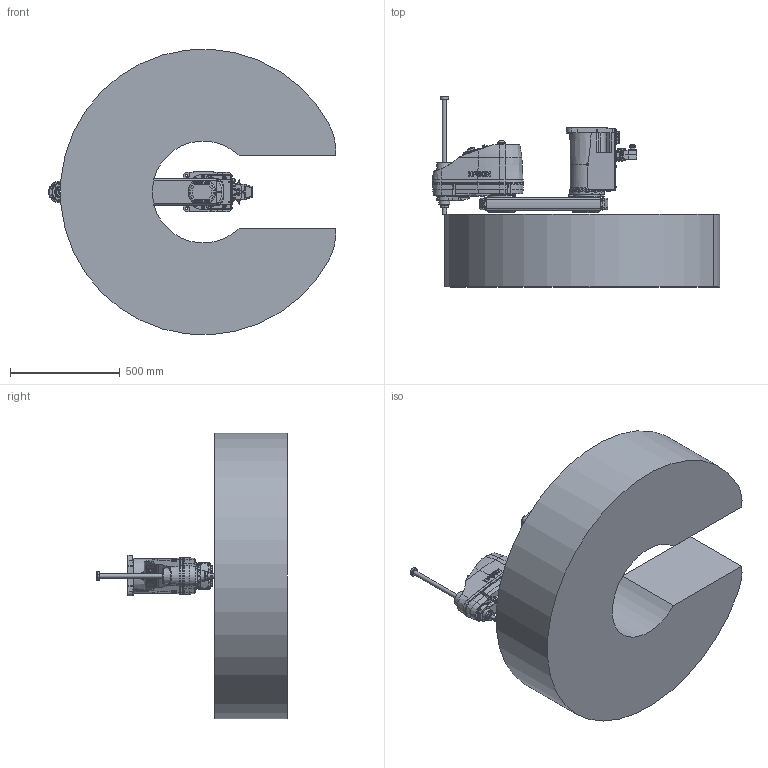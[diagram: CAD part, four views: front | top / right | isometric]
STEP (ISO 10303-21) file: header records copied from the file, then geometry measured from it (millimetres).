
FILE_DESCRIPTION( ( 'STEP AP214' ), '1' );
FILE_NAME( 'C:/Users/9607552/Desktop/GX8-B653SR_langle.stp', '2023-07-07T02:45:07', ( '' ), ( '' ), ' ', 'PARTsolutions', ' ' );
FILE_SCHEMA( ( 'AUTOMOTIVE_DESIGN { 1 0 10303 214 1 1 1 1 }' ) );
Length unit declared in the file: millimetre
Products named in the file (9): GX8-B653SRA-W; _B452S_BASE; _B652SR; _B652SR_1; _B652SR_2; _B452S_J2; _B453SZA; _Angle-B; _GX8-26-1-B_WS
Assembly tree (10 placements, depth 2):
  GX8-B653SRA-W
    _B452S_BASE
    _B652SR
    _B652SR_1  x2
    _B652SR_2  x2
    _B452S_J2
    _B453SZA
    _Angle-B
    _GX8-26-1-B_WS
Bounding box: 1307.76 x 865 x 1298.02 mm (x, y, z)
Volume: 357543902.7 mm3; surface area: 5046550.2 mm2
Topology: 10 solids, 10 shells, 2856 faces, 6964 edges, 4543 vertices
Faces by surface type: plane 1439, cylinder 922, cone 333, torus 119, bspline 37, sphere 6
Full cylindrical faces by diameter (mm): 1 x48, 1.18 x55, 2.261 x4, 2.459 x12, 3 x32, 3.242 x18, 3.3 x5, 3.9 x4, 4 x4, 4.2 x8, 4.5 x4, 4.8 x4, 5.34 x4, 5.5 x17, 6 x1, 6.2 x4, 6.647 x4, 6.8 x2, 7 x48, 8 x5, 8.5 x4, 9 x24, 10 x18, 11 x4, 11.2 x5, 11.5 x1, 12 x5, 12.25 x1, 13 x3, 13.2 x12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
Entity records: 101868 total; most frequent: CARTESIAN_POINT 19286, DIRECTION 12590, ORIENTED_EDGE 11596, EDGE_CURVE 5798, AXIS2_PLACEMENT_3D 4837, VERTEX_POINT 4179, EDGE_LOOP 3782, FACE_OUTER_BOUND 3146
